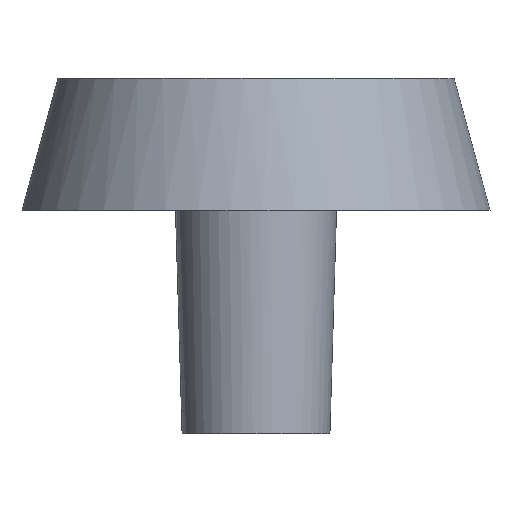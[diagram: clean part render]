
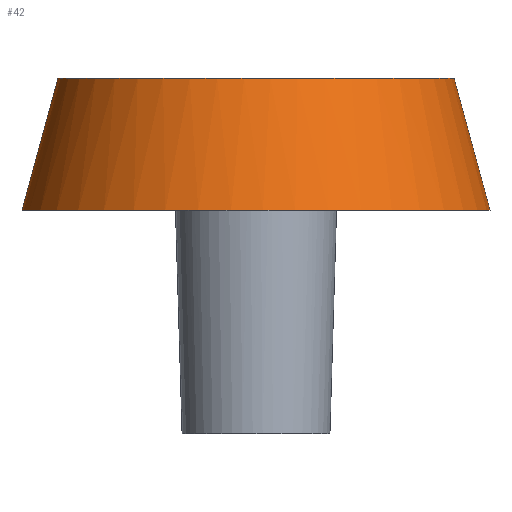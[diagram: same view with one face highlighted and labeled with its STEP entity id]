
A CAD part, front view. The second image highlights one B-rep face of the part: STEP entity #42.
In plain terms, the highlighted free-form (B-spline) face has degree [2, 1] with [5, 2] control points.
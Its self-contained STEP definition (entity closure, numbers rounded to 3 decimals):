
#42=ADVANCED_FACE('',(#82),#410,.T.);
#82=FACE_OUTER_BOUND('',#122,.T.);
#122=EDGE_LOOP('',(#190,#191,#192,#193));
#190=ORIENTED_EDGE('',*,*,#318,.T.);
#191=ORIENTED_EDGE('',*,*,#319,.T.);
#192=ORIENTED_EDGE('',*,*,#308,.F.);
#193=ORIENTED_EDGE('',*,*,#317,.T.);
#308=EDGE_CURVE('',#371,#370,#443,.T.);
#317=EDGE_CURVE('',#371,#376,#485,.T.);
#318=EDGE_CURVE('',#376,#377,#448,.T.);
#319=EDGE_CURVE('',#377,#370,#486,.T.);
#370=VERTEX_POINT('',#1067);
#371=VERTEX_POINT('',#1068);
#376=VERTEX_POINT('',#1073);
#377=VERTEX_POINT('',#1074);
#410=(
BOUNDED_SURFACE()
B_SPLINE_SURFACE(2,1,((#946,#947),(#948,#949),(#950,#951),(#952,#953),(#954,
#955)),.UNSPECIFIED.,.F.,.F.,.F.)
B_SPLINE_SURFACE_WITH_KNOTS((3,2,3),(2,2),(0.,1.571,3.142),
(51.284,62.686),.UNSPECIFIED.)
GEOMETRIC_REPRESENTATION_ITEM()
RATIONAL_B_SPLINE_SURFACE(((1.,1.),(0.707,0.707),
(1.,1.),(0.707,0.707),(1.,1.)))
REPRESENTATION_ITEM('')
SURFACE()
);
#443=B_SPLINE_CURVE_WITH_KNOTS('',1,(#869,#870),.UNSPECIFIED.,.F.,.F.,(2,
2),(51.284,62.686),.UNSPECIFIED.);
#448=B_SPLINE_CURVE_WITH_KNOTS('',1,(#904,#905),.UNSPECIFIED.,.F.,.F.,(2,
2),(51.284,62.686),.UNSPECIFIED.);
#485=(
BOUNDED_CURVE()
B_SPLINE_CURVE(2,(#899,#900,#901,#902,#903),.UNSPECIFIED.,.F.,.F.)
B_SPLINE_CURVE_WITH_KNOTS((3,2,3),(0.,1.571,3.142),
.UNSPECIFIED.)
CURVE()
GEOMETRIC_REPRESENTATION_ITEM()
RATIONAL_B_SPLINE_CURVE((1.,0.707,1.,0.707,1.))
REPRESENTATION_ITEM('')
);
#486=(
BOUNDED_CURVE()
B_SPLINE_CURVE(2,(#906,#907,#908,#909,#910),.UNSPECIFIED.,.F.,.F.)
B_SPLINE_CURVE_WITH_KNOTS((3,2,3),(-3.142,-1.571,0.),
.UNSPECIFIED.)
CURVE()
GEOMETRIC_REPRESENTATION_ITEM()
RATIONAL_B_SPLINE_CURVE((1.,0.707,1.,0.707,1.))
REPRESENTATION_ITEM('')
);
#869=CARTESIAN_POINT('',(-18.65,0.,29.65));
#870=CARTESIAN_POINT('',(-21.65,0.,18.65));
#899=CARTESIAN_POINT('',(-18.65,0.,29.65));
#900=CARTESIAN_POINT('',(-18.65,-16.5,29.65));
#901=CARTESIAN_POINT('',(-2.15,-16.5,29.65));
#902=CARTESIAN_POINT('',(14.35,-16.5,29.65));
#903=CARTESIAN_POINT('',(14.35,0.,29.65));
#904=CARTESIAN_POINT('',(14.35,0.,29.65));
#905=CARTESIAN_POINT('',(17.35,0.,18.65));
#906=CARTESIAN_POINT('',(17.35,0.,18.65));
#907=CARTESIAN_POINT('',(17.35,-19.5,18.65));
#908=CARTESIAN_POINT('',(-2.15,-19.5,18.65));
#909=CARTESIAN_POINT('',(-21.65,-19.5,18.65));
#910=CARTESIAN_POINT('',(-21.65,0.,18.65));
#946=CARTESIAN_POINT('',(-18.65,0.,29.65));
#947=CARTESIAN_POINT('',(-21.65,0.,18.65));
#948=CARTESIAN_POINT('',(-18.65,-16.5,29.65));
#949=CARTESIAN_POINT('',(-21.65,-19.5,18.65));
#950=CARTESIAN_POINT('',(-2.15,-16.5,29.65));
#951=CARTESIAN_POINT('',(-2.15,-19.5,18.65));
#952=CARTESIAN_POINT('',(14.35,-16.5,29.65));
#953=CARTESIAN_POINT('',(17.35,-19.5,18.65));
#954=CARTESIAN_POINT('',(14.35,0.,29.65));
#955=CARTESIAN_POINT('',(17.35,0.,18.65));
#1067=CARTESIAN_POINT('',(-21.65,0.,18.65));
#1068=CARTESIAN_POINT('',(-18.65,0.,29.65));
#1073=CARTESIAN_POINT('',(14.35,0.,29.65));
#1074=CARTESIAN_POINT('',(17.35,0.,18.65));
